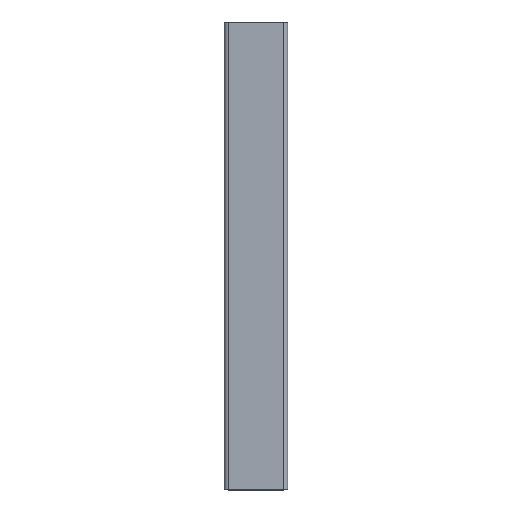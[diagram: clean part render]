
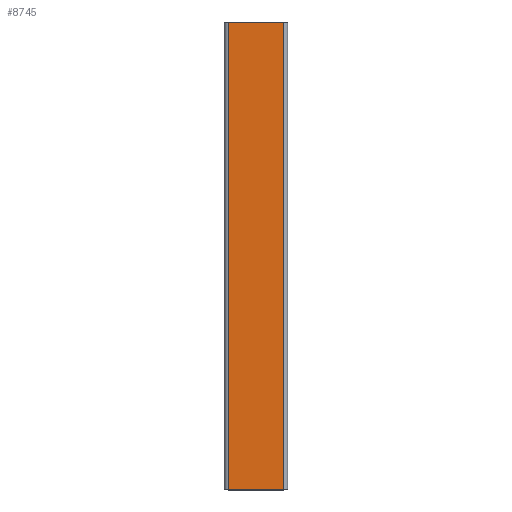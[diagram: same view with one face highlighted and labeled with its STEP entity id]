
A CAD part, top view. The second image highlights one B-rep face of the part: STEP entity #8745.
In plain terms, the highlighted planar face has unit normal (0, 0, 1).
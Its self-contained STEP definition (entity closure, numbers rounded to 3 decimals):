
#2666=DIRECTION('',(-1.,0.,0.));
#2667=VECTOR('',#2666,70.);
#2668=CARTESIAN_POINT('',(35.,590.,25.));
#2669=LINE('',#2668,#2667);
#2747=DIRECTION('',(0.,1.,0.));
#2748=VECTOR('',#2747,590.);
#2749=CARTESIAN_POINT('',(35.,0.,25.));
#2750=LINE('',#2749,#2748);
#2751=DIRECTION('',(-1.,0.,0.));
#2752=VECTOR('',#2751,70.);
#2753=CARTESIAN_POINT('',(35.,0.,25.));
#2754=LINE('',#2753,#2752);
#2856=DIRECTION('',(0.,1.,0.));
#2857=VECTOR('',#2856,590.);
#2858=CARTESIAN_POINT('',(-35.,0.,25.));
#2859=LINE('',#2858,#2857);
#4258=CARTESIAN_POINT('',(35.,0.,25.));
#4259=VERTEX_POINT('',#4258);
#4260=CARTESIAN_POINT('',(-35.,0.,25.));
#4262=VERTEX_POINT('',#4260);
#4734=CARTESIAN_POINT('',(35.,590.,25.));
#4735=VERTEX_POINT('',#4734);
#4736=CARTESIAN_POINT('',(-35.,590.,25.));
#4738=VERTEX_POINT('',#4736);
#8731=CARTESIAN_POINT('',(35.,0.,25.));
#8732=DIRECTION('',(0.,0.,1.));
#8733=DIRECTION('',(-1.,0.,0.));
#8734=AXIS2_PLACEMENT_3D('',#8731,#8732,#8733);
#8735=PLANE('',#8734);
#8736=ORIENTED_EDGE('',*,*,#8694,.F.);
#8738=ORIENTED_EDGE('',*,*,#8737,.F.);
#8740=ORIENTED_EDGE('',*,*,#8739,.T.);
#8742=ORIENTED_EDGE('',*,*,#8741,.T.);
#8743=EDGE_LOOP('',(#8736,#8738,#8740,#8742));
#8744=FACE_OUTER_BOUND('',#8743,.F.);
#8694=EDGE_CURVE('',#4735,#4738,#2669,.T.);
#8737=EDGE_CURVE('',#4259,#4735,#2750,.T.);
#8739=EDGE_CURVE('',#4259,#4262,#2754,.T.);
#8741=EDGE_CURVE('',#4262,#4738,#2859,.T.);
#8745=ADVANCED_FACE('',(#8744),#8735,.T.);
